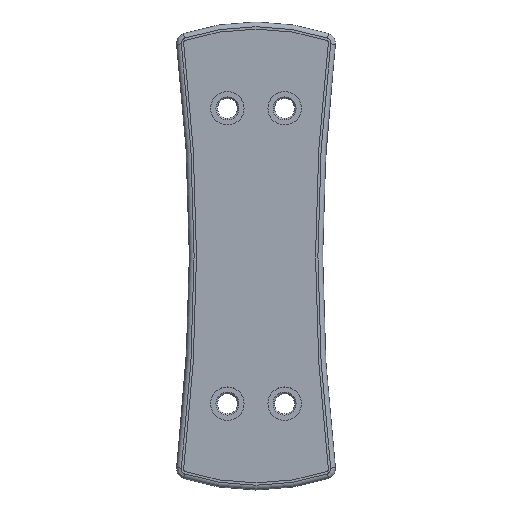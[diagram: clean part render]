
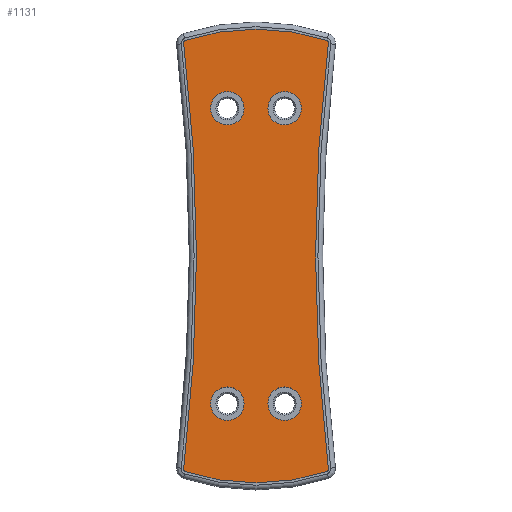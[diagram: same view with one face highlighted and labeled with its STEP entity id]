
A CAD part, top view. The second image highlights one B-rep face of the part: STEP entity #1131.
In plain terms, the highlighted planar face has unit normal (0, 0, 1).
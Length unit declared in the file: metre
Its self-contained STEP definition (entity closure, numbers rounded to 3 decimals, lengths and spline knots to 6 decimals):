
#107=B_SPLINE_CURVE_WITH_KNOTS('',3,(#1687,#1688,#1689,#1690,#1691,#1692,
#1693,#1694,#1695,#1696,#1697),.UNSPECIFIED.,.F.,.F.,(4,1,1,1,1,1,1,1,4),
(0.097274,0.097336,0.190041,0.350222,0.513915,
0.681358,0.851571,0.929068,0.929113),
 .UNSPECIFIED.);
#112=B_SPLINE_CURVE_WITH_KNOTS('',3,(#1738,#1739,#1740,#1741,#1742,#1743,
#1744,#1745,#1746,#1747,#1748),.UNSPECIFIED.,.F.,.F.,(4,1,1,1,1,1,1,1,4),
(0.070545,0.070678,0.148336,0.318866,0.486619,
0.650617,0.811096,0.903984,0.904035),
 .UNSPECIFIED.);
#116=B_SPLINE_CURVE_WITH_KNOTS('',3,(#1783,#1784,#1785,#1786,#1787,#1788,
#1789,#1790,#1791,#1792,#1793),.UNSPECIFIED.,.F.,.F.,(4,1,1,1,1,1,1,1,4),
(0.097274,0.097336,0.190041,0.350222,0.513915,
0.681358,0.851571,0.929068,0.929074),
 .UNSPECIFIED.);
#120=B_SPLINE_CURVE_WITH_KNOTS('',3,(#1828,#1829,#1830,#1831,#1832,#1833,
#1834,#1835,#1836,#1837,#1838),.UNSPECIFIED.,.F.,.F.,(4,1,1,1,1,1,1,1,4),
(0.07055,0.070681,0.148302,0.318839,0.486599,
0.650603,0.811089,0.903981,0.904031),
 .UNSPECIFIED.);
#193=PLANE('',#1244);
#311=ORIENTED_EDGE('',*,*,#536,.F.);
#312=ORIENTED_EDGE('',*,*,#574,.F.);
#313=ORIENTED_EDGE('',*,*,#579,.F.);
#314=ORIENTED_EDGE('',*,*,#604,.F.);
#315=ORIENTED_EDGE('',*,*,#581,.F.);
#316=ORIENTED_EDGE('',*,*,#585,.F.);
#317=ORIENTED_EDGE('',*,*,#588,.F.);
#318=ORIENTED_EDGE('',*,*,#591,.F.);
#319=ORIENTED_EDGE('',*,*,#594,.F.);
#320=ORIENTED_EDGE('',*,*,#597,.F.);
#321=ORIENTED_EDGE('',*,*,#600,.F.);
#322=ORIENTED_EDGE('',*,*,#602,.F.);
#536=EDGE_CURVE('',#703,#703,#818,.T.);
#574=EDGE_CURVE('',#731,#731,#834,.T.);
#579=EDGE_CURVE('',#736,#736,#839,.T.);
#581=EDGE_CURVE('',#737,#739,#107,.T.);
#585=EDGE_CURVE('',#742,#737,#840,.T.);
#588=EDGE_CURVE('',#743,#742,#112,.T.);
#591=EDGE_CURVE('',#746,#743,#842,.T.);
#594=EDGE_CURVE('',#747,#746,#116,.T.);
#597=EDGE_CURVE('',#750,#747,#844,.T.);
#600=EDGE_CURVE('',#751,#750,#120,.T.);
#602=EDGE_CURVE('',#739,#751,#846,.T.);
#604=EDGE_CURVE('',#753,#753,#848,.T.);
#703=VERTEX_POINT('',#1552);
#731=VERTEX_POINT('',#1658);
#736=VERTEX_POINT('',#1672);
#737=VERTEX_POINT('',#1685);
#739=VERTEX_POINT('',#1698);
#742=VERTEX_POINT('',#1721);
#743=VERTEX_POINT('',#1736);
#746=VERTEX_POINT('',#1766);
#747=VERTEX_POINT('',#1781);
#750=VERTEX_POINT('',#1811);
#751=VERTEX_POINT('',#1826);
#753=VERTEX_POINT('',#1855);
#818=CIRCLE('',#1188,0.0035);
#834=CIRCLE('',#1222,0.0035);
#839=CIRCLE('',#1231,0.0035);
#840=CIRCLE('',#1233,0.047623);
#842=CIRCLE('',#1236,0.372182);
#844=CIRCLE('',#1239,0.047623);
#846=CIRCLE('',#1242,0.372182);
#848=CIRCLE('',#1245,0.0035);
#918=EDGE_LOOP('',(#311));
#919=EDGE_LOOP('',(#312));
#920=EDGE_LOOP('',(#313));
#921=EDGE_LOOP('',(#314));
#922=EDGE_LOOP('',(#315,#316,#317,#318,#319,#320,#321,#322));
#1018=FACE_BOUND('',#918,.T.);
#1019=FACE_BOUND('',#919,.T.);
#1020=FACE_BOUND('',#920,.T.);
#1021=FACE_BOUND('',#921,.T.);
#1022=FACE_BOUND('',#922,.T.);
#1131=ADVANCED_FACE('',(#1018,#1019,#1020,#1021,#1022),#193,.T.);
#1188=AXIS2_PLACEMENT_3D('',#1551,#1301,#1302);
#1222=AXIS2_PLACEMENT_3D('',#1657,#1385,#1386);
#1231=AXIS2_PLACEMENT_3D('',#1671,#1403,#1404);
#1233=AXIS2_PLACEMENT_3D('',#1722,#1407,#1408);
#1236=AXIS2_PLACEMENT_3D('',#1767,#1413,#1414);
#1239=AXIS2_PLACEMENT_3D('',#1812,#1419,#1420);
#1242=AXIS2_PLACEMENT_3D('',#1851,#1425,#1426);
#1244=AXIS2_PLACEMENT_3D('',#1853,#1429,#1430);
#1245=AXIS2_PLACEMENT_3D('',#1854,#1431,#1432);
#1301=DIRECTION('',(0.,0.,1.));
#1302=DIRECTION('',(-1.,0.,0.));
#1385=DIRECTION('',(0.,0.,1.));
#1386=DIRECTION('',(-1.,0.,0.));
#1403=DIRECTION('',(0.,0.,1.));
#1404=DIRECTION('',(-1.,0.,0.));
#1407=DIRECTION('',(0.,0.,-1.));
#1408=DIRECTION('',(0.312,-0.95,0.));
#1413=DIRECTION('',(0.,0.,1.));
#1414=DIRECTION('',(-1.,0.,0.));
#1419=DIRECTION('',(0.,0.,-1.));
#1420=DIRECTION('',(-0.312,0.95,0.));
#1425=DIRECTION('',(0.,0.,1.));
#1426=DIRECTION('',(1.,0.,0.));
#1429=DIRECTION('',(0.,0.,1.));
#1430=DIRECTION('',(1.,0.,0.));
#1431=DIRECTION('',(0.,0.,1.));
#1432=DIRECTION('',(1.,0.,0.));
#1551=CARTESIAN_POINT('',(0.006,-0.031,0.09765));
#1552=CARTESIAN_POINT('',(0.0025,-0.031,0.09765));
#1657=CARTESIAN_POINT('',(-0.006,-0.031,0.09765));
#1658=CARTESIAN_POINT('',(-0.0095,-0.031,0.09765));
#1671=CARTESIAN_POINT('',(0.006,0.031,0.09765));
#1672=CARTESIAN_POINT('',(0.0025,0.031,0.09765));
#1685=CARTESIAN_POINT('',(-0.014837,-0.045253,0.09765));
#1687=CARTESIAN_POINT('',(-0.014837,-0.045253,0.09765));
#1688=CARTESIAN_POINT('',(-0.014837,-0.045253,0.09765));
#1689=CARTESIAN_POINT('',(-0.01486,-0.045245,0.09765));
#1690=CARTESIAN_POINT('',(-0.014922,-0.045219,0.09765));
#1691=CARTESIAN_POINT('',(-0.015017,-0.045149,0.09765));
#1692=CARTESIAN_POINT('',(-0.01511,-0.045027,0.09765));
#1693=CARTESIAN_POINT('',(-0.015174,-0.04487,0.09765));
#1694=CARTESIAN_POINT('',(-0.015192,-0.044723,0.09765));
#1695=CARTESIAN_POINT('',(-0.015186,-0.044634,0.09765));
#1696=CARTESIAN_POINT('',(-0.015183,-0.044607,0.09765));
#1697=CARTESIAN_POINT('',(-0.015183,-0.044607,0.09765));
#1698=CARTESIAN_POINT('',(-0.015183,-0.044607,0.09765));
#1721=CARTESIAN_POINT('',(0.014837,-0.045253,0.09765));
#1722=CARTESIAN_POINT('',(0.,0.,0.09765));
#1736=CARTESIAN_POINT('',(0.015183,-0.044607,0.09765));
#1738=CARTESIAN_POINT('',(0.015183,-0.044607,0.09765));
#1739=CARTESIAN_POINT('',(0.015183,-0.044607,0.09765));
#1740=CARTESIAN_POINT('',(0.015186,-0.044634,0.09765));
#1741=CARTESIAN_POINT('',(0.015192,-0.044723,0.09765));
#1742=CARTESIAN_POINT('',(0.015174,-0.04487,0.09765));
#1743=CARTESIAN_POINT('',(0.01511,-0.045027,0.09765));
#1744=CARTESIAN_POINT('',(0.015017,-0.045149,0.09765));
#1745=CARTESIAN_POINT('',(0.014922,-0.045219,0.09765));
#1746=CARTESIAN_POINT('',(0.01486,-0.045245,0.09765));
#1747=CARTESIAN_POINT('',(0.014837,-0.045253,0.09765));
#1748=CARTESIAN_POINT('',(0.014837,-0.045253,0.09765));
#1766=CARTESIAN_POINT('',(0.015183,0.044607,0.09765));
#1767=CARTESIAN_POINT('',(0.384682,0.,0.09765));
#1781=CARTESIAN_POINT('',(0.014837,0.045253,0.09765));
#1783=CARTESIAN_POINT('',(0.014837,0.045253,0.09765));
#1784=CARTESIAN_POINT('',(0.014837,0.045253,0.09765));
#1785=CARTESIAN_POINT('',(0.01486,0.045245,0.09765));
#1786=CARTESIAN_POINT('',(0.014922,0.045219,0.09765));
#1787=CARTESIAN_POINT('',(0.015017,0.045149,0.09765));
#1788=CARTESIAN_POINT('',(0.01511,0.045027,0.09765));
#1789=CARTESIAN_POINT('',(0.015174,0.04487,0.09765));
#1790=CARTESIAN_POINT('',(0.015192,0.044723,0.09765));
#1791=CARTESIAN_POINT('',(0.015186,0.044635,0.09765));
#1792=CARTESIAN_POINT('',(0.015183,0.044607,0.09765));
#1793=CARTESIAN_POINT('',(0.015183,0.044607,0.09765));
#1811=CARTESIAN_POINT('',(-0.014837,0.045253,0.09765));
#1812=CARTESIAN_POINT('',(0.,0.,0.09765));
#1826=CARTESIAN_POINT('',(-0.015183,0.044607,0.09765));
#1828=CARTESIAN_POINT('',(-0.015183,0.044607,0.09765));
#1829=CARTESIAN_POINT('',(-0.015183,0.044607,0.09765));
#1830=CARTESIAN_POINT('',(-0.015186,0.044634,0.09765));
#1831=CARTESIAN_POINT('',(-0.015192,0.044723,0.09765));
#1832=CARTESIAN_POINT('',(-0.015174,0.04487,0.09765));
#1833=CARTESIAN_POINT('',(-0.01511,0.045027,0.09765));
#1834=CARTESIAN_POINT('',(-0.015017,0.045149,0.09765));
#1835=CARTESIAN_POINT('',(-0.014922,0.045219,0.09765));
#1836=CARTESIAN_POINT('',(-0.01486,0.045245,0.09765));
#1837=CARTESIAN_POINT('',(-0.014837,0.045253,0.09765));
#1838=CARTESIAN_POINT('',(-0.014837,0.045253,0.09765));
#1851=CARTESIAN_POINT('',(-0.384682,0.,0.09765));
#1853=CARTESIAN_POINT('',(0.,0.,0.09765));
#1854=CARTESIAN_POINT('',(-0.006,0.031,0.09765));
#1855=CARTESIAN_POINT('',(-0.0025,0.031,0.09765));
